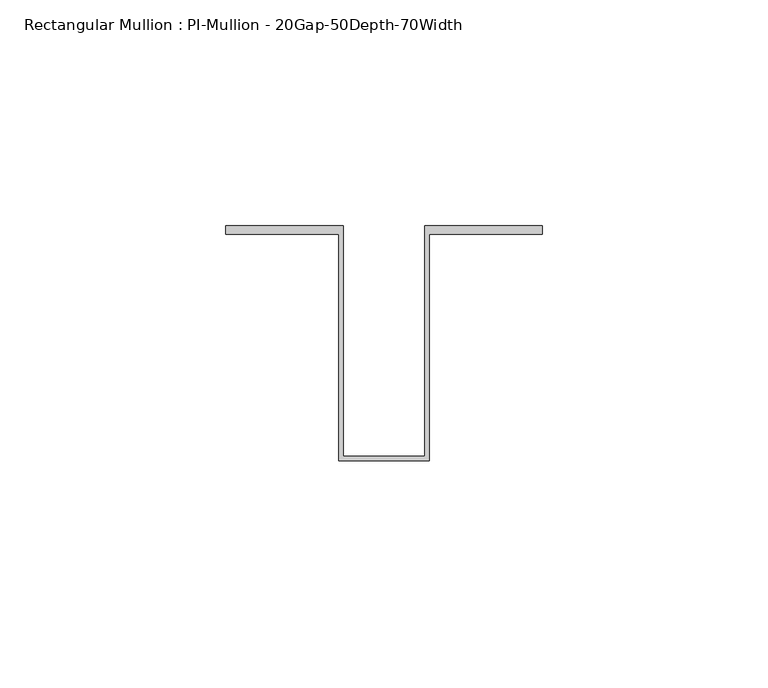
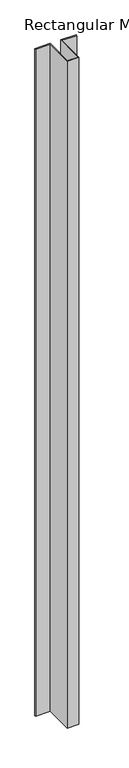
"""IFC4 building model written with IfcOpenShell, lengths in millimetres: member geometry, Rectangular Mullion : PI-Mullion - 20Gap-50Depth-70Width."""

from ifc_helpers import new_model, si_unit, frame, origin, place, context, project, spatial, polyline, outline, extrude, source, transform, mapped, element, save


def rectangular_mullion_pi_mullion_20gap_50depth_70width_d0ed6173(model_context):
    return source(origin(), model_context, "Body", "SweptSolid", [
        extrude(outline(polyline([(-10.0, 0.2), (-35.0, 0.2), (-35.0, 2.0), (-9.0, 2.0), (-9.0, -49.0), (9.0, -49.0), (9.0, 2.0), (35.0, 2.0), (35.0, 0.2), (10.0, 0.2), (10.0, -50.0), (-10.0, -50.0), (-10.0, 0.2)])), frame((0.0, 0.0, -1200.0), z_axis=(0.0, 0.0, 1.0), x_axis=(1.0, 0.0, 0.0)), (0.0, 0.0, 1.0), 1200.0),
    ])


if __name__ == "__main__":
    model = new_model("IFC4")
    model_context = context("Model", 3, world=origin())
    ifc_project = project(units=[si_unit("LENGTHUNIT", "METRE", prefix="MILLI")], contexts=[model_context])
    site = spatial("IfcSite", under=ifc_project)
    building = spatial("IfcBuilding", under=site)
    placement = place(None, origin())
    rectangular_mullion_pi_mullion_20gap_50depth_70width_shape = rectangular_mullion_pi_mullion_20gap_50depth_70width_d0ed6173(model_context)
    element("IfcMember", 1, ObjectType="Rectangular Mullion : PI-Mullion - 20Gap-50Depth-70Width", at=placement, inside=building, context=model_context, shape_type="MappedRepresentation", body=[
        mapped(rectangular_mullion_pi_mullion_20gap_50depth_70width_shape, transform((0.0, 0.0, 0.0), x_axis=(1.0, 0.0, 0.0), y_axis=(0.0, 1.0, 0.0), z_axis=(0.0, 0.0, 1.0))),
    ])
    save(model, "model.ifc")
